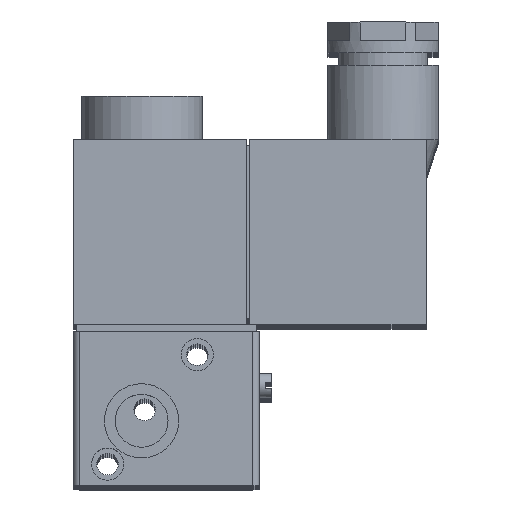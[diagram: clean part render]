
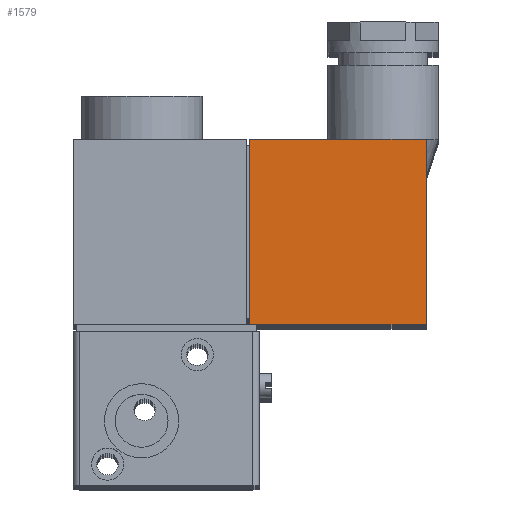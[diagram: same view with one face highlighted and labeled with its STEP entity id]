
A CAD part, top view. The second image highlights one B-rep face of the part: STEP entity #1579.
In plain terms, the highlighted planar face has unit normal (0, 0, 1).
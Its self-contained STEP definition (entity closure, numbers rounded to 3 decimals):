
#283=FACE_OUTER_BOUND('',#396,.T.);
#396=EDGE_LOOP('',(#1338,#1339,#1340,#1341));
#482=LINE('',#2640,#603);
#512=LINE('',#2704,#633);
#514=LINE('',#2710,#635);
#515=LINE('',#2712,#636);
#603=VECTOR('',#2142,1000.);
#633=VECTOR('',#2196,1000.);
#635=VECTOR('',#2204,1000.);
#636=VECTOR('',#2207,1000.);
#812=VERTEX_POINT('',#2637);
#813=VERTEX_POINT('',#2639);
#833=VERTEX_POINT('',#2698);
#835=VERTEX_POINT('',#2702);
#976=EDGE_CURVE('',#812,#813,#482,.T.);
#1007=EDGE_CURVE('',#833,#835,#512,.T.);
#1011=EDGE_CURVE('',#812,#833,#514,.T.);
#1012=EDGE_CURVE('',#813,#835,#515,.T.);
#1338=ORIENTED_EDGE('',*,*,#1007,.T.);
#1339=ORIENTED_EDGE('',*,*,#1012,.F.);
#1340=ORIENTED_EDGE('',*,*,#976,.F.);
#1341=ORIENTED_EDGE('',*,*,#1011,.T.);
#1495=PLANE('',#1794);
#1579=ADVANCED_FACE('',(#283),#1495,.F.);
#1794=AXIS2_PLACEMENT_3D('',#2711,#2205,#2206);
#2142=DIRECTION('',(0.,-1.,0.));
#2196=DIRECTION('',(0.,-1.,0.));
#2204=DIRECTION('',(-1.,0.,0.));
#2205=DIRECTION('center_axis',(0.,0.,-1.));
#2206=DIRECTION('ref_axis',(-1.,0.,0.));
#2207=DIRECTION('',(-1.,0.,0.));
#2637=CARTESIAN_POINT('',(57.,30.,22.));
#2639=CARTESIAN_POINT('',(57.,0.,22.));
#2640=CARTESIAN_POINT('',(57.,30.,22.));
#2698=CARTESIAN_POINT('',(28.5,30.,22.));
#2702=CARTESIAN_POINT('',(28.5,0.,22.));
#2704=CARTESIAN_POINT('',(28.5,30.,22.));
#2710=CARTESIAN_POINT('',(57.,30.,22.));
#2711=CARTESIAN_POINT('Origin',(57.,30.,22.));
#2712=CARTESIAN_POINT('',(57.,0.,22.));
